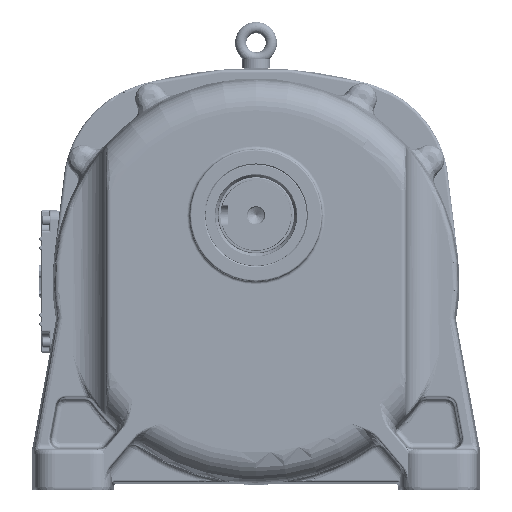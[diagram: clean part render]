
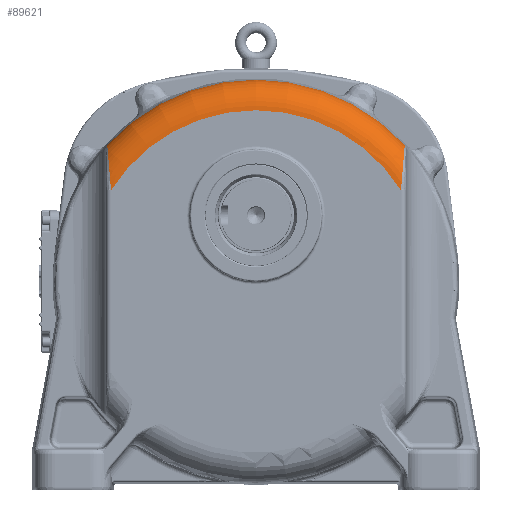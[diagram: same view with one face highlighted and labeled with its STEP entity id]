
A CAD part, front view. The second image highlights one B-rep face of the part: STEP entity #89621.
In plain terms, the highlighted toroidal (fillet/blend) face has major radius 168.286 mm and minor radius 30 mm.
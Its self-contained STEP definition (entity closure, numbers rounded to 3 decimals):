
#2775=TOROIDAL_SURFACE('',#97603,168.286,30.);
#4964=B_SPLINE_CURVE_WITH_KNOTS('',3,(#191567,#191568,#191569,#191570),
 .UNSPECIFIED.,.F.,.F.,(4,4),(0.,0.483),.UNSPECIFIED.);
#4965=B_SPLINE_CURVE_WITH_KNOTS('',3,(#191621,#191622,#191623,#191624,#191625,
#191626,#191627,#191628),.UNSPECIFIED.,.F.,.F.,(4,1,1,1,1,4),(-4.797,
-3.426,-2.056,-1.028,-0.685,
0.),.UNSPECIFIED.);
#4977=B_SPLINE_CURVE_WITH_KNOTS('',3,(#191954,#191955,#191956,#191957,#191958,
#191959,#191960,#191961),.UNSPECIFIED.,.F.,.F.,(4,1,1,1,1,4),(-4.797,
-4.112,-3.427,-2.056,-0.685,
0.),.UNSPECIFIED.);
#4979=B_SPLINE_CURVE_WITH_KNOTS('',3,(#191989,#191990,#191991,#191992),
 .UNSPECIFIED.,.F.,.F.,(4,4),(-0.483,0.),.UNSPECIFIED.);
#11677=FACE_OUTER_BOUND('',#17219,.T.);
#17219=EDGE_LOOP('',(#69182,#69183,#69184,#69185,#69186,#69187));
#31580=CIRCLE('',#97299,168.286);
#31731=CIRCLE('',#97604,198.284);
#37342=VERTEX_POINT('',#186854);
#37343=VERTEX_POINT('',#186856);
#37650=VERTEX_POINT('',#191524);
#37652=VERTEX_POINT('',#191565);
#37664=VERTEX_POINT('',#191952);
#37666=VERTEX_POINT('',#191987);
#48161=EDGE_CURVE('',#37343,#37342,#31580,.T.);
#48662=EDGE_CURVE('',#37652,#37650,#4964,.T.);
#48664=EDGE_CURVE('',#37343,#37652,#4965,.T.);
#48686=EDGE_CURVE('',#37664,#37342,#4977,.T.);
#48689=EDGE_CURVE('',#37666,#37664,#4979,.T.);
#48697=EDGE_CURVE('',#37666,#37650,#31731,.T.);
#69182=ORIENTED_EDGE('',*,*,#48664,.F.);
#69183=ORIENTED_EDGE('',*,*,#48161,.T.);
#69184=ORIENTED_EDGE('',*,*,#48686,.F.);
#69185=ORIENTED_EDGE('',*,*,#48689,.F.);
#69186=ORIENTED_EDGE('',*,*,#48697,.T.);
#69187=ORIENTED_EDGE('',*,*,#48662,.F.);
#89621=ADVANCED_FACE('',(#11677),#2775,.T.);
#97299=AXIS2_PLACEMENT_3D('',#186857,#113403,#113404);
#97603=AXIS2_PLACEMENT_3D('',#192077,#114175,#114176);
#97604=AXIS2_PLACEMENT_3D('',#192078,#114177,#114178);
#113403=DIRECTION('center_axis',(0.,1.,0.));
#113404=DIRECTION('ref_axis',(-1.,0.,0.));
#114175=DIRECTION('center_axis',(0.,1.,0.));
#114176=DIRECTION('ref_axis',(0.,0.,1.));
#114177=DIRECTION('center_axis',(0.,-1.,0.));
#114178=DIRECTION('ref_axis',(-1.,0.,0.));
#186854=CARTESIAN_POINT('',(129.809,-19.258,87.77));
#186856=CARTESIAN_POINT('',(-155.191,-19.258,87.77));
#186857=CARTESIAN_POINT('Origin',(-12.691,-19.258,-1.75));
#191524=CARTESIAN_POINT('',(-159.189,10.455,131.873));
#191565=CARTESIAN_POINT('',(-158.812,4.742,131.388));
#191567=CARTESIAN_POINT('Ctrl Pts',(-158.812,4.742,
131.388));
#191568=CARTESIAN_POINT('Ctrl Pts',(-158.853,6.59,
131.904));
#191569=CARTESIAN_POINT('Ctrl Pts',(-158.979,8.555,
132.076));
#191570=CARTESIAN_POINT('Ctrl Pts',(-159.189,10.455,131.873));
#191621=CARTESIAN_POINT('Ctrl Pts',(-155.191,-19.258,
87.77));
#191622=CARTESIAN_POINT('Ctrl Pts',(-155.603,-19.258,
92.597));
#191623=CARTESIAN_POINT('Ctrl Pts',(-156.436,-18.415,
102.342));
#191624=CARTESIAN_POINT('Ctrl Pts',(-157.535,-14.01,
115.486));
#191625=CARTESIAN_POINT('Ctrl Pts',(-158.217,-7.794,
123.899));
#191626=CARTESIAN_POINT('Ctrl Pts',(-158.614,-1.566,
128.866));
#191627=CARTESIAN_POINT('Ctrl Pts',(-158.755,2.119,
130.656));
#191628=CARTESIAN_POINT('Ctrl Pts',(-158.812,4.742,
131.388));
#191952=CARTESIAN_POINT('',(133.43,4.742,131.388));
#191954=CARTESIAN_POINT('Ctrl Pts',(133.43,4.742,131.388));
#191955=CARTESIAN_POINT('Ctrl Pts',(133.373,2.119,130.656));
#191956=CARTESIAN_POINT('Ctrl Pts',(133.184,-2.797,
128.269));
#191957=CARTESIAN_POINT('Ctrl Pts',(132.605,-10.577,
121.035));
#191958=CARTESIAN_POINT('Ctrl Pts',(131.666,-16.542,109.602));
#191959=CARTESIAN_POINT('Ctrl Pts',(130.635,-18.936,
97.452));
#191960=CARTESIAN_POINT('Ctrl Pts',(130.015,-19.258,
90.184));
#191961=CARTESIAN_POINT('Ctrl Pts',(129.809,-19.258,
87.77));
#191987=CARTESIAN_POINT('',(133.806,10.455,131.873));
#191989=CARTESIAN_POINT('Ctrl Pts',(133.806,10.455,131.873));
#191990=CARTESIAN_POINT('Ctrl Pts',(133.596,8.555,132.076));
#191991=CARTESIAN_POINT('Ctrl Pts',(133.471,6.59,131.904));
#191992=CARTESIAN_POINT('Ctrl Pts',(133.43,4.742,131.388));
#192077=CARTESIAN_POINT('Origin',(-12.691,10.742,-1.75));
#192078=CARTESIAN_POINT('Origin',(-12.691,10.455,-1.75));
